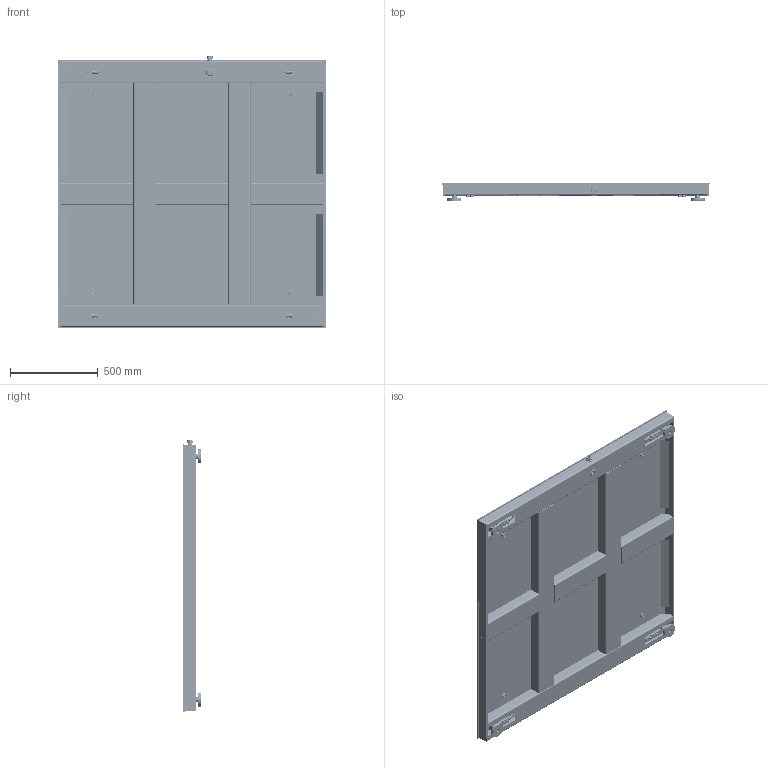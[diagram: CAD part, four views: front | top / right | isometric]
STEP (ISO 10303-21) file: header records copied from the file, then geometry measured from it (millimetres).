
FILE_DESCRIPTION (( 'STEP AP214' ), '1' );
FILE_NAME ('HIFS-6060 Series.STEP', '2019-10-17T15:40:24', ( '' ), ( '' ), 'SwSTEP 2.0', 'SolidWorks 2017', '' );
FILE_SCHEMA (( 'AUTOMOTIVE_DESIGN' ));
Length unit declared in the file: inch
Products named in the file (62): Cable Adapter; 2818-0128-0_91287A010; 0530-0825-01-0; 0508-0918-01_ENCLOSURE ASSY; 0508-0918-002_PLATE; 100-89743; 5504-0012; 0529-0024-01-0; 93625A150_93625A150; smkds_1-9-3.5; 0508-0918-003_COVER_Default<As Machined>; 900-100115; Pin 4-6362E-1 Rubber Foot; HP-00003_SS; blind standoff_pmm_PEM BSO4-M3-6; Hex Nut - 5_8 - 11_SS; 800-000166; Hex Bolt - 1_2 - 20_2.25 SS; 100-82172_SS Smooth; PEM BSO4-632-10; 0508-0918-001_ENCLOSURE ASSY; HM-SS-2.5K_SS; 100-91068; 5504-0012 Rubber; 900-100128; 0535-0575-XX-0 PWA; 100-89745_No Notch; HP-00007_SS; Mini Cable Adapter; 100-89979_Stainless; 900-100111; Mini Cable; 0530-0852-01-0; HP-00037; flat washer type a selected narrow_ai_Selected Narrow FW 0.156; Adapter Nut; Phoenix_1751141; HIFS-6060 Series; 2817-0188; HP-00042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
Assembly tree (120 placements, depth 6):
  HIFS-6060 Series
    100-91068
    100-80340_SS  x2
    100-89979_Stainless
    100-82172_SS Smooth
    Socket Countersunk Head Cap Screw - 1_4 - 20_0.75 SS  x2
    Hex Nut - 5_8 - 11_SS  x4
    HP-00037
    HP-00039
    100-89745_No Notch
    HP-00040  x2
    100-89743  x2
    100-89744  x2
    HP-00042  x4
    0530-0825-01-0  x3
    900-100111
    800-000166
    900-100115
    900-100128  x8
    HM-SS-2.5K_SS  x4
      HP-00007_SS
      HP-0554-0028-03-2.5K
        HI SBHF14-2.5K-Cell
        Mini Cable Adapter
          Mini Cable
          Gland
          Cable Adapter Nut
            Adapter Nut
          Cable Adapter
      Hex Bolt - 1_2 - 20_2.25 SS
      5504-0012
        Pin 4-6362E-1 Rubber Foot
        93625A150_93625A150
        91800A236_91800A236
        ORING
        5504-0012 foot insert
        5504-0012 Rubber
        5504-0012 threaded insert
      HP-00003_SS
    HI 6011 ASSEMBLY
      0508-0918-01_ENCLOSURE ASSY
        0508-0918-001_ENCLOSURE ASSY
          0508-0918-001_ENCLOSURE
          blind standoff_pmm_PEM BSO4-M3-6  x8
          PEM BSO4-632-10  x4
        0508-0918-003_COVER_Default<As Machined>
        0508-0918-002_PLATE
      0524-0038-01-0
      0535-0575-XX-0 PWA
        0534-0575-01-0 PWB
        Phoenix_1751141
          smkds_1-7-3.5
        smkds_1-7-3.5  x3
        Phoenix_1751167
          smkds_1-9-3.5
      2817-0188  x4
        flat washer type a selected narrow_ai_Selected Narrow FW 0.156
        pan cross head_ai_CR-PHMS 0.138-32x0.25x0.25-C
      0529-0024-01-0  x5
      6007-0097-0  x5
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Bounding box: 1524.01 x 105.36 x 1546.27 mm (x, y, z)
Volume: 26118020.1 mm3; surface area: 9350170.8 mm2
Topology: 665 solids, 673 shells, 19708 faces, 50521 edges, 32931 vertices
Faces by surface type: plane 8713, bspline 6185, cylinder 2685, cone 1953, torus 156, sphere 16
Full cylindrical faces by diameter (mm): 10 x4
Entity records: 699370 total; most frequent: CARTESIAN_POINT 223186, ORIENTED_EDGE 74094, DIRECTION 43054, EDGE_CURVE 37048, VERTEX_POINT 24488, VECTOR 22512, LINE 22512, EDGE_LOOP 15101
